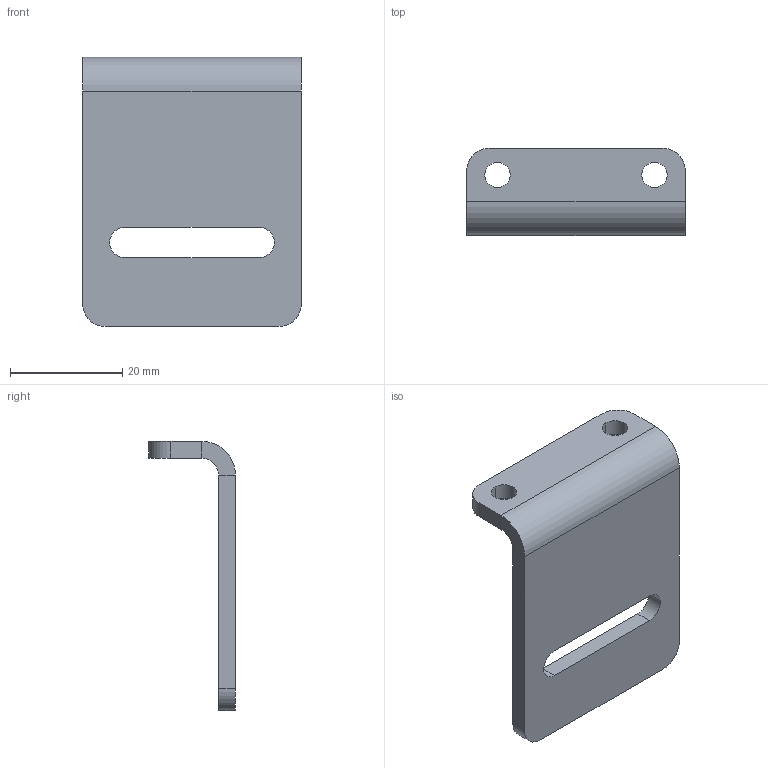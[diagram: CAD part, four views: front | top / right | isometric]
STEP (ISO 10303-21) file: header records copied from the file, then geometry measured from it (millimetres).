
FILE_DESCRIPTION (( 'STEP AP203' ), '1' );
FILE_NAME ('MAM13509 -XA- Tôle fixation chaine de cable X - porte Outil.STEP', '2024-12-19T11:17:31', ( '' ), ( '' ), 'SwSTEP 2.0', 'SolidWorks 2019', '' );
FILE_SCHEMA (( 'CONFIG_CONTROL_DESIGN' ));
Length unit declared in the file: millimetre
Products named in the file (1): MAM13509 -XA- Tôle fixation chaine de cable X - porte Outil
Bounding box: 39 x 15.5 x 48 mm (x, y, z)
Volume: 6258.4 mm3; surface area: 5016.8 mm2
Topology: 1 solids, 1 shells, 26 faces, 64 edges, 40 vertices
Faces by surface type: plane 14, cylinder 12
Entity records: 857 total; most frequent: DIRECTION 142, CARTESIAN_POINT 131, ORIENTED_EDGE 128, EDGE_CURVE 64, AXIS2_PLACEMENT_3D 51, LINE 40, VERTEX_POINT 40, VECTOR 40
